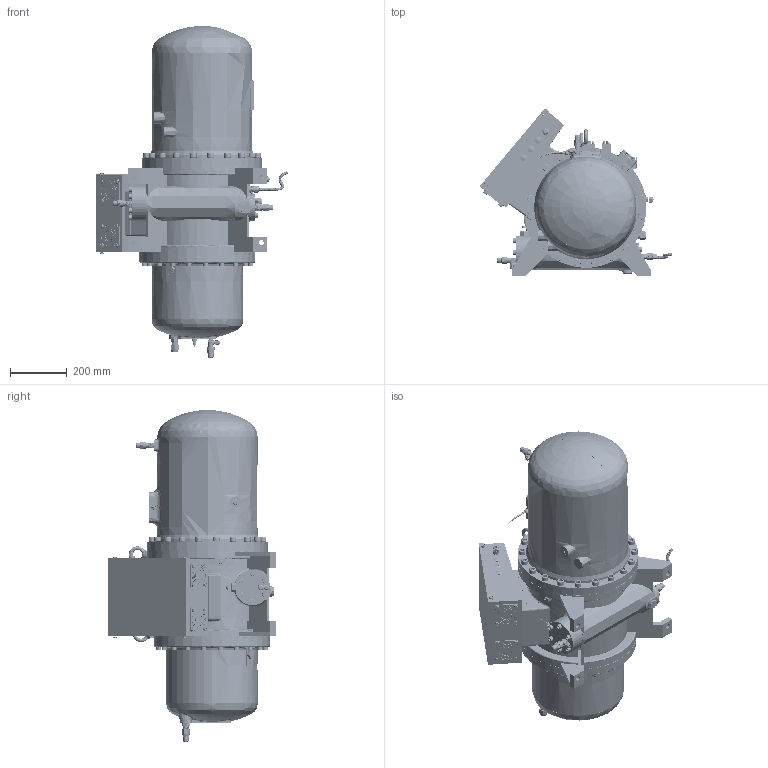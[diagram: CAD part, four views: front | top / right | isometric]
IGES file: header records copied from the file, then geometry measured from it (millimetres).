
Start section: SolidWorks IGES file using analytic representation for surfaces
Global section: file name: \\Datacenterrd1\@研發部\設計一課(冷媒)\(1)-文管中心\(2)-3D文管\(8)-Compressor 3Doutline(Surface)\RC2\RC2-A\IGS\RC2-200A outline.IGS; native system: SolidWorks 2013; preprocessor: SolidWorks 2013; author: hedylu; date: 141225.110237; units: centimetre
Bounding box: 678.95 x 591.44 x 1172 mm (x, y, z)
Surface area: 2979522.7 mm2 (no closed solid volume)
Topology: 0 solids, 0 shells, 2863 faces, 54305 edges, 54283 vertices
Faces by surface type: bspline 1791, revolution 1072
